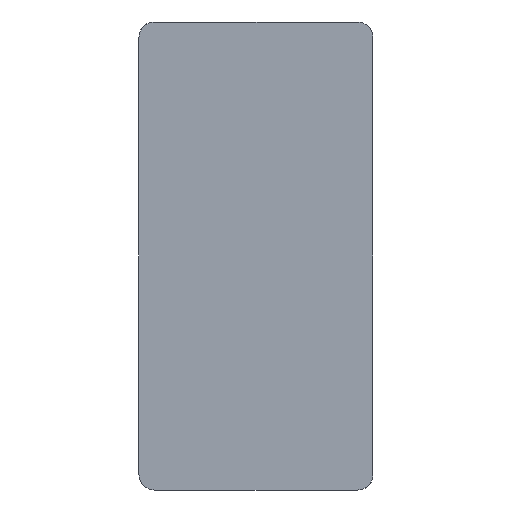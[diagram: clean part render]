
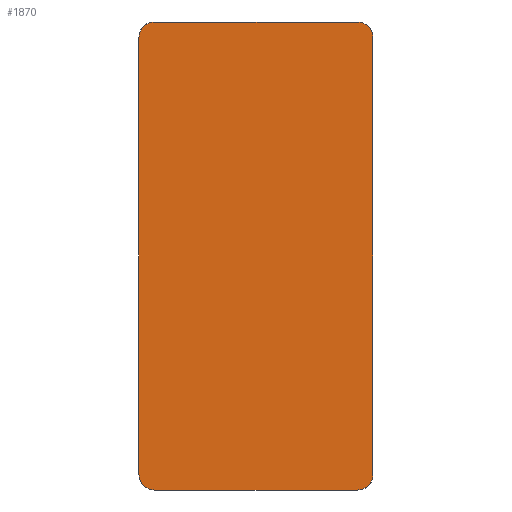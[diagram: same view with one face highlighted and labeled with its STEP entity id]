
A CAD part, front view. The second image highlights one B-rep face of the part: STEP entity #1870.
In plain terms, the highlighted planar face has unit normal (0, -1, 0).
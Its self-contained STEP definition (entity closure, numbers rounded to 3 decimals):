
#21 = EDGE_CURVE ( 'NONE', #3788, #1802, #3626, .T. ) ;
#92 = ORIENTED_EDGE ( 'NONE', *, *, #392, .T. ) ;
#145 = DIRECTION ( 'NONE',  ( 0., -1., 0. ) ) ;
#155 = VECTOR ( 'NONE', #3489, 1000. ) ;
#288 = DIRECTION ( 'NONE',  ( 0., 0., -1. ) ) ;
#342 = EDGE_CURVE ( 'NONE', #3177, #936, #2093, .T. ) ;
#392 = EDGE_CURVE ( 'NONE', #1599, #609, #1635, .T. ) ;
#568 = VERTEX_POINT ( 'NONE', #3395 ) ;
#583 = EDGE_CURVE ( 'NONE', #568, #1599, #3117, .T. ) ;
#594 = EDGE_CURVE ( 'NONE', #609, #3788, #1093, .T. ) ;
#609 = VERTEX_POINT ( 'NONE', #3735 ) ;
#636 = AXIS2_PLACEMENT_3D ( 'NONE', #4100, #701, #3384 ) ;
#701 = DIRECTION ( 'NONE',  ( 0., -1., 0. ) ) ;
#734 = DIRECTION ( 'NONE',  ( 0., -1., 0. ) ) ;
#837 = ORIENTED_EDGE ( 'NONE', *, *, #2703, .T. ) ;
#859 = EDGE_CURVE ( 'NONE', #936, #568, #3098, .T. ) ;
#900 = CARTESIAN_POINT ( 'NONE',  ( -32.5, 0., 70. ) ) ;
#936 = VERTEX_POINT ( 'NONE', #4086 ) ;
#1000 = VECTOR ( 'NONE', #1508, 1000. ) ;
#1050 = DIRECTION ( 'NONE',  ( 1., 0., 0. ) ) ;
#1093 = LINE ( 'NONE', #1406, #3561 ) ;
#1162 = EDGE_LOOP ( 'NONE', ( #2182, #3183, #92, #4152, #2158, #837, #4006, #2302 ) ) ;
#1358 = AXIS2_PLACEMENT_3D ( 'NONE', #900, #734, #288 ) ;
#1360 = CARTESIAN_POINT ( 'NONE',  ( -32.5, 0., -70. ) ) ;
#1399 = AXIS2_PLACEMENT_3D ( 'NONE', #1360, #2665, #2682 ) ;
#1406 = CARTESIAN_POINT ( 'NONE',  ( 37.5, 0., 70. ) ) ;
#1435 = CARTESIAN_POINT ( 'NONE',  ( -37.5, 0., 70. ) ) ;
#1440 = CARTESIAN_POINT ( 'NONE',  ( -37.5, 0., 70. ) ) ;
#1508 = DIRECTION ( 'NONE',  ( -1., 0., 0. ) ) ;
#1599 = VERTEX_POINT ( 'NONE', #3307 ) ;
#1635 = CIRCLE ( 'NONE', #4201, 5. ) ;
#1737 = CARTESIAN_POINT ( 'NONE',  ( 32.5, 0., 70. ) ) ;
#1802 = VERTEX_POINT ( 'NONE', #3999 ) ;
#1862 = CIRCLE ( 'NONE', #1358, 5. ) ;
#1870 = ADVANCED_FACE ( 'NONE', ( #4301 ), #3304, .T. ) ;
#1887 = LINE ( 'NONE', #2211, #1000 ) ;
#2093 = LINE ( 'NONE', #1435, #155 ) ;
#2158 = ORIENTED_EDGE ( 'NONE', *, *, #21, .T. ) ;
#2182 = ORIENTED_EDGE ( 'NONE', *, *, #859, .T. ) ;
#2211 = CARTESIAN_POINT ( 'NONE',  ( -32.5, 0., 75. ) ) ;
#2216 = CARTESIAN_POINT ( 'NONE',  ( 32.5, 0., -70. ) ) ;
#2302 = ORIENTED_EDGE ( 'NONE', *, *, #342, .T. ) ;
#2468 = CARTESIAN_POINT ( 'NONE',  ( -32.5, 0., 75. ) ) ;
#2634 = VECTOR ( 'NONE', #1050, 1000. ) ;
#2665 = DIRECTION ( 'NONE',  ( 0., -1., 0. ) ) ;
#2682 = DIRECTION ( 'NONE',  ( 0., 0., -1. ) ) ;
#2703 = EDGE_CURVE ( 'NONE', #1802, #4096, #1887, .T. ) ;
#3098 = CIRCLE ( 'NONE', #1399, 5. ) ;
#3117 = LINE ( 'NONE', #4114, #2634 ) ;
#3177 = VERTEX_POINT ( 'NONE', #1440 ) ;
#3183 = ORIENTED_EDGE ( 'NONE', *, *, #583, .T. ) ;
#3189 = CARTESIAN_POINT ( 'NONE',  ( 37.5, 0., 70. ) ) ;
#3304 = PLANE ( 'NONE',  #636 ) ;
#3307 = CARTESIAN_POINT ( 'NONE',  ( 32.5, 0., -75. ) ) ;
#3381 = EDGE_CURVE ( 'NONE', #4096, #3177, #1862, .T. ) ;
#3384 = DIRECTION ( 'NONE',  ( 0., 0., -1. ) ) ;
#3395 = CARTESIAN_POINT ( 'NONE',  ( -32.5, 0., -75. ) ) ;
#3438 = DIRECTION ( 'NONE',  ( 0., 0., 1. ) ) ;
#3489 = DIRECTION ( 'NONE',  ( 0., 0., -1. ) ) ;
#3561 = VECTOR ( 'NONE', #3438, 1000. ) ;
#3626 = CIRCLE ( 'NONE', #4266, 5. ) ;
#3735 = CARTESIAN_POINT ( 'NONE',  ( 37.5, 0., -70. ) ) ;
#3763 = DIRECTION ( 'NONE',  ( 0., -1., 0. ) ) ;
#3788 = VERTEX_POINT ( 'NONE', #3189 ) ;
#3806 = DIRECTION ( 'NONE',  ( 0., 0., -1. ) ) ;
#3999 = CARTESIAN_POINT ( 'NONE',  ( 32.5, 0., 75. ) ) ;
#4006 = ORIENTED_EDGE ( 'NONE', *, *, #3381, .T. ) ;
#4086 = CARTESIAN_POINT ( 'NONE',  ( -37.5, 0., -70. ) ) ;
#4096 = VERTEX_POINT ( 'NONE', #2468 ) ;
#4100 = CARTESIAN_POINT ( 'NONE',  ( -32.5, 0., -70. ) ) ;
#4114 = CARTESIAN_POINT ( 'NONE',  ( -32.5, 0., -75. ) ) ;
#4152 = ORIENTED_EDGE ( 'NONE', *, *, #594, .T. ) ;
#4201 = AXIS2_PLACEMENT_3D ( 'NONE', #2216, #145, #4308 ) ;
#4266 = AXIS2_PLACEMENT_3D ( 'NONE', #1737, #3763, #3806 ) ;
#4301 = FACE_OUTER_BOUND ( 'NONE', #1162, .T. ) ;
#4308 = DIRECTION ( 'NONE',  ( 0., 0., -1. ) ) ;
